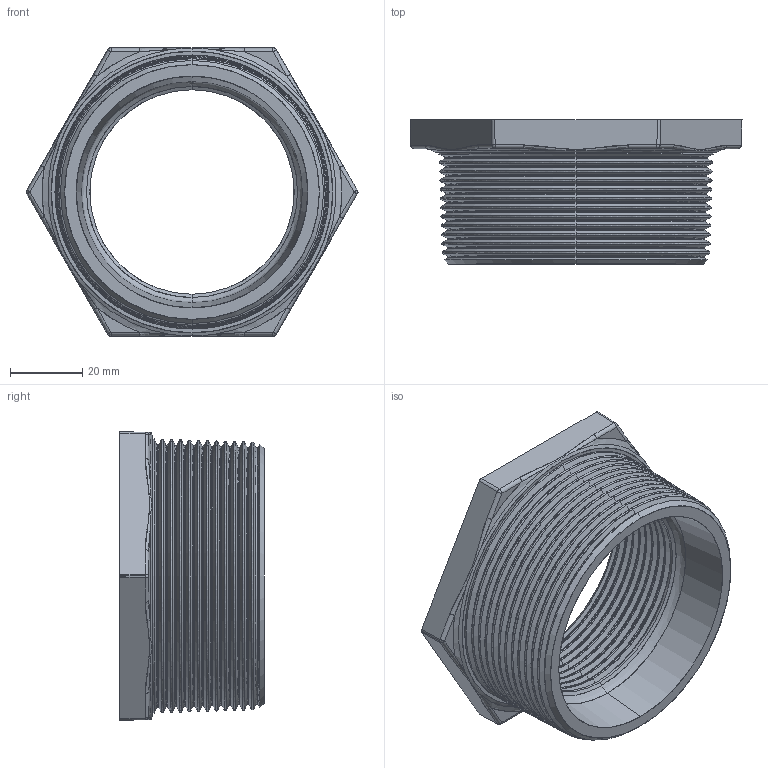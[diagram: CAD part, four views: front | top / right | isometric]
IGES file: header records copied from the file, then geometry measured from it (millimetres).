
Start section: SolidWorks IGES file using analytic representation for surfaces
Global section: file name: C:\Users\Joel Rosa\Desktop\Tubulação\12-01-OK\12-01-051.IGS; native system: SolidWorks 2011; preprocessor: SolidWorks 2011; author: Joel Rosa; date: 121203.200705; units: millimetre
Bounding box: 92.07 x 40 x 80 mm (x, y, z)
Surface area: 29835.5 mm2 (no closed solid volume)
Topology: 0 solids, 0 shells, 426 faces, 3497 edges, 3497 vertices
Faces by surface type: bspline 300, revolution 126
